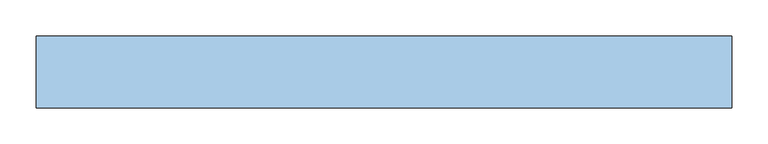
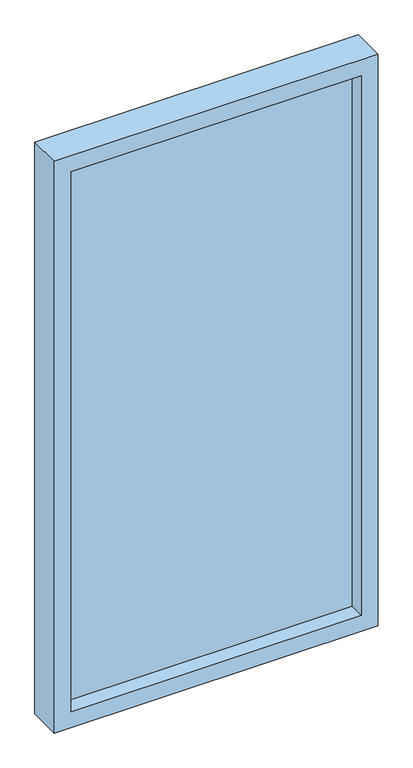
"""IFC4 building model written with IfcOpenShell, lengths in millimetres: window geometry, DFMA Window 1 Bay 2020 V1 : WI.XX, 1 Bay, Type 2."""

from ifc_helpers import new_model, si_unit, frame, origin, place, context, project, spatial, polyline, outline, extrude, source, transform, mapped, element, save


def window_5925f158(model_context):
    return source(origin(), model_context, "Body", "SweptSolid", [
        extrude(outline(polyline([(432.5, -13.8), (432.5, -20.2), (-432.5, -20.2), (-432.5, -13.8), (432.5, -13.8)])), frame((0.0, 0.0, 650.0), z_axis=(0.0, 0.0, 1.0), x_axis=(1.0, 0.0, 0.0)), (0.0, 0.0, 1.0), 1700.0),
        extrude(outline(polyline([(2400.0, 482.5), (2400.0, -482.5), (600.0, -482.5), (600.0, 482.5), (2400.0, 482.5)]), holes=[polyline([(650.0, 432.5), (650.0, -432.5), (2350.0, -432.5), (2350.0, 432.5), (650.0, 432.5)])]), frame((0.0, -67.0, 0.0), z_axis=(0.0, 1.0, 0.0), x_axis=(0.0, 0.0, 1.0)), (0.0, 0.0, 1.0), 100.0),
    ])


if __name__ == "__main__":
    model = new_model("IFC4")
    model_context = context("Model", 3, world=origin())
    ifc_project = project(units=[si_unit("LENGTHUNIT", "METRE", prefix="MILLI")], contexts=[model_context])
    site = spatial("IfcSite", under=ifc_project)
    building = spatial("IfcBuilding", under=site)
    placement = place(None, origin())
    window_shape = window_5925f158(model_context)
    element("IfcWindow", 1, ObjectType="DFMA Window 1 Bay 2020 V1 : WI.XX, 1 Bay, Type 2", at=placement, inside=building, context=model_context, shape_type="MappedRepresentation", body=[
        mapped(window_shape, transform((0.0, 0.0, 0.0), x_axis=(1.0, 0.0, 0.0), y_axis=(0.0, 1.0, 0.0), z_axis=(0.0, 0.0, 1.0))),
    ])
    save(model, "model.ifc")
